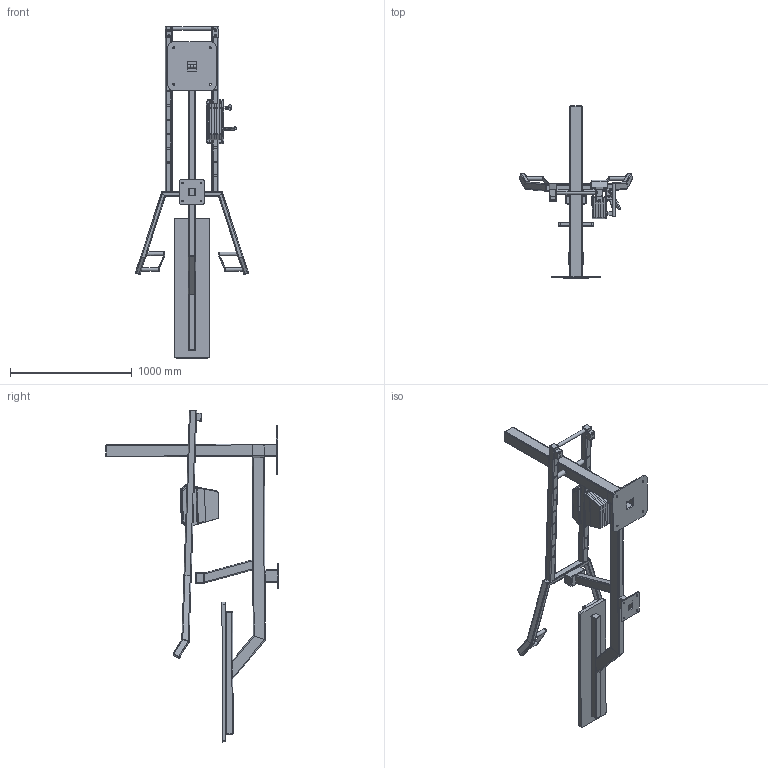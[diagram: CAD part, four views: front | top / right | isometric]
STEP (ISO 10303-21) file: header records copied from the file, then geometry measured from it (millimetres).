
FILE_DESCRIPTION(/* description */ (''),/* implementation_level */ '2;1');
FILE_NAME(/* name */ 'OG30_3D_Low.step',/* time_stamp */ '2025-11-11T16:01:37+02:00',/* author */ (''),/* organization */ (''),/* preprocessor_version */ 'ST-DEVELOPER v20.1',/* originating_system */ 'Autodesk Translation Framework v14.21.0.0',/* authorisation */ '');
FILE_SCHEMA (('AUTOMOTIVE_DESIGN { 1 0 10303 214 3 1 1 }'));
Length unit declared in the file: millimetre
Products named in the file (1): OG30_3D_Low
Bounding box: 929.25 x 1418.3 x 2731.24 mm (x, y, z)
Volume: 29017913.5 mm3; surface area: 7327342.5 mm2
Topology: 56 solids, 56 shells, 1031 faces, 2617 edges, 1678 vertices
Faces by surface type: plane 567, cylinder 407, torus 21, bspline 15, sphere 12, cone 9
Full cylindrical faces by diameter (mm): 8.5 x4, 11 x4, 11.8 x1, 12 x2, 13 x16, 14 x4, 16 x4, 18 x4, 18.5 x2, 25 x1, 28 x1, 29 x2, 30 x7, 39.8 x2, 40 x2, 40.2 x1
Entity records: 32722 total; most frequent: CARTESIAN_POINT 6813, DIRECTION 5486, ORIENTED_EDGE 5234, EDGE_CURVE 2617, AXIS2_PLACEMENT_3D 1937, VERTEX_POINT 1678, LINE 1612, VECTOR 1612
